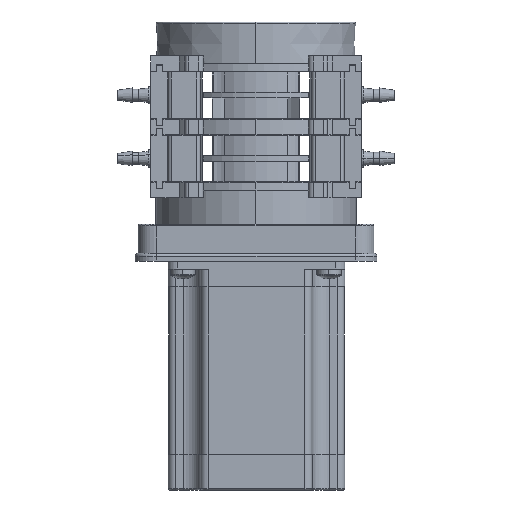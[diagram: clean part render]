
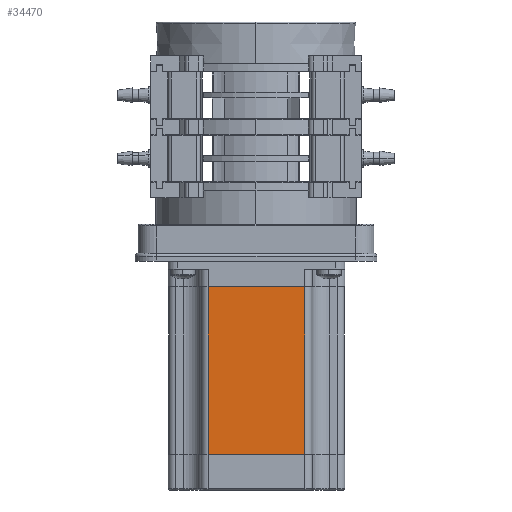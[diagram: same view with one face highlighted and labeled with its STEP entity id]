
A CAD part, left-side view. The second image highlights one B-rep face of the part: STEP entity #34470.
In plain terms, the highlighted planar face has unit normal (-1, 0, 0).
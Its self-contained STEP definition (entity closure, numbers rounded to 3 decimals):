
#209 = DIRECTION ( 'NONE',  ( -1., 0., 0. ) ) ;
#1272 = LINE ( 'NONE', #9767, #30834 ) ;
#2262 = VERTEX_POINT ( 'NONE', #19926 ) ;
#2341 = VERTEX_POINT ( 'NONE', #23766 ) ;
#2564 = LINE ( 'NONE', #20070, #24532 ) ;
#2994 = VERTEX_POINT ( 'NONE', #25458 ) ;
#4640 = VECTOR ( 'NONE', #17834, 1000. ) ;
#5387 = EDGE_LOOP ( 'NONE', ( #19920, #23159, #36031, #23905 ) ) ;
#6319 = VERTEX_POINT ( 'NONE', #13151 ) ;
#9016 = LINE ( 'NONE', #17964, #16717 ) ;
#9074 = EDGE_CURVE ( 'NONE', #2994, #2262, #19956, .T. ) ;
#9354 = DIRECTION ( 'NONE',  ( 0., 0., -1. ) ) ;
#9767 = CARTESIAN_POINT ( 'NONE',  ( -28.354, -15.709, -41.405 ) ) ;
#10344 = EDGE_CURVE ( 'NONE', #6319, #2994, #9016, .T. ) ;
#13151 = CARTESIAN_POINT ( 'NONE',  ( -28.354, -15.709, -41.405 ) ) ;
#16717 = VECTOR ( 'NONE', #9354, 1000. ) ;
#17454 = PLANE ( 'NONE',  #34822 ) ;
#17834 = DIRECTION ( 'NONE',  ( 0., 1., 0. ) ) ;
#17964 = CARTESIAN_POINT ( 'NONE',  ( -28.354, -15.709, 49.705 ) ) ;
#19920 = ORIENTED_EDGE ( 'NONE', *, *, #26444, .T. ) ;
#19926 = CARTESIAN_POINT ( 'NONE',  ( -28.354, 15.431, -95.405 ) ) ;
#19956 = LINE ( 'NONE', #32033, #4640 ) ;
#20070 = CARTESIAN_POINT ( 'NONE',  ( -28.354, 15.431, 49.705 ) ) ;
#20335 = DIRECTION ( 'NONE',  ( 0., 0., 1. ) ) ;
#22913 = DIRECTION ( 'NONE',  ( 0., 0., -1. ) ) ;
#23047 = CARTESIAN_POINT ( 'NONE',  ( -28.354, -15.709, 49.705 ) ) ;
#23159 = ORIENTED_EDGE ( 'NONE', *, *, #27102, .T. ) ;
#23766 = CARTESIAN_POINT ( 'NONE',  ( -28.354, 15.431, -41.405 ) ) ;
#23905 = ORIENTED_EDGE ( 'NONE', *, *, #10344, .F. ) ;
#24532 = VECTOR ( 'NONE', #22913, 1000. ) ;
#25458 = CARTESIAN_POINT ( 'NONE',  ( -28.354, -15.709, -95.405 ) ) ;
#26444 = EDGE_CURVE ( 'NONE', #6319, #2341, #1272, .T. ) ;
#27102 = EDGE_CURVE ( 'NONE', #2341, #2262, #2564, .T. ) ;
#29791 = DIRECTION ( 'NONE',  ( 0., 1., 0. ) ) ;
#29924 = FACE_OUTER_BOUND ( 'NONE', #5387, .T. ) ;
#30834 = VECTOR ( 'NONE', #29791, 1000. ) ;
#32033 = CARTESIAN_POINT ( 'NONE',  ( -28.354, -15.709, -95.405 ) ) ;
#34470 = ADVANCED_FACE ( 'NONE', ( #29924 ), #17454, .T. ) ;
#34822 = AXIS2_PLACEMENT_3D ( 'NONE', #23047, #209, #20335 ) ;
#36031 = ORIENTED_EDGE ( 'NONE', *, *, #9074, .F. ) ;
